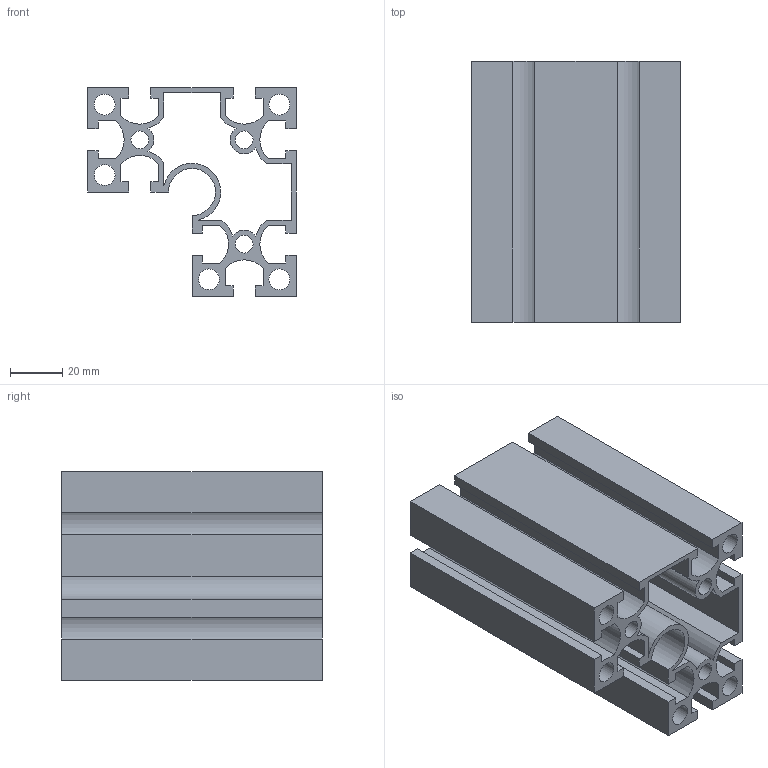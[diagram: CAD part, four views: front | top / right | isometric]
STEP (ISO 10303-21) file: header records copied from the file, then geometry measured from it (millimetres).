
FILE_DESCRIPTION(/* description */ ('Unknown'),/* implementation_level */ '2;1');
FILE_NAME(/* name */ 'NM8840',/* time_stamp */ '2026-08-31T11:42:34+08:00',/* author */ ('Unknown'),/* organization */ ('Unknown'),/* preprocessor_version */ 'ST-DEVELOPER v16.7',/* originating_system */ 'DEX',/* authorisation */ $);
FILE_SCHEMA (('AUTOMOTIVE_DESIGN {1 0 10303 214 3 1 1}'));
Length unit declared in the file: millimetre
Products named in the file (1): 8840-
Bounding box: 80 x 100 x 80 mm (x, y, z)
Volume: 146237.5 mm3; surface area: 107794.5 mm2
Topology: 1 solids, 1 shells, 99 faces, 291 edges, 194 vertices
Faces by surface type: plane 72, cylinder 27
Full cylindrical faces by diameter (mm): 6.8 x3, 8 x5
Entity records: 3305 total; most frequent: CARTESIAN_POINT 577, ORIENTED_EDGE 566, DIRECTION 537, EDGE_CURVE 283, LINE 229, VECTOR 229, VERTEX_POINT 194, AXIS2_PLACEMENT_3D 154
